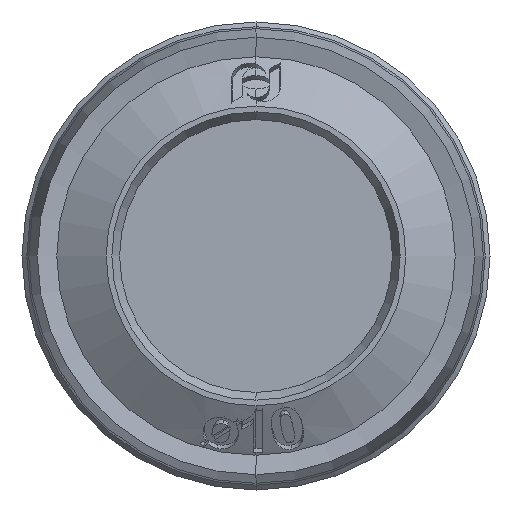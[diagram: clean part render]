
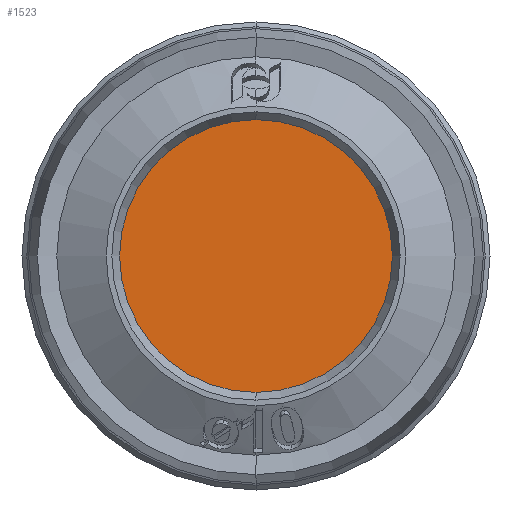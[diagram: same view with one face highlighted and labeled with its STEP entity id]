
A CAD part, front view. The second image highlights one B-rep face of the part: STEP entity #1523.
In plain terms, the highlighted planar face has unit normal (0, -1, 0).
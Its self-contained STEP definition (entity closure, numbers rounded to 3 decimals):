
#428 = CARTESIAN_POINT ( 'NONE',  ( 0., 4.6, 5.1 ) ) ;
#432 = CARTESIAN_POINT ( 'NONE',  ( 0., 4.6, -5.1 ) ) ;
#1523 = ADVANCED_FACE ( 'NONE', ( #5523 ), #7112, .T. ) ;
#1843 = AXIS2_PLACEMENT_3D ( 'NONE', #14503, #14504, #14505 ) ;
#1877 = AXIS2_PLACEMENT_3D ( 'NONE', #15085, #15086, #15087 ) ;
#3483 = VERTEX_POINT ( 'NONE', #428 ) ;
#3487 = VERTEX_POINT ( 'NONE', #432 ) ;
#5523 = FACE_OUTER_BOUND ( 'NONE', #16932, .T. ) ;
#6556 = AXIS2_PLACEMENT_3D ( 'NONE', #7120, #7121, #7122 ) ;
#7112 = PLANE ( 'NONE',  #6556 ) ;
#7120 = CARTESIAN_POINT ( 'NONE',  ( 0., 4.6, 0. ) ) ;
#7121 = DIRECTION ( 'NONE',  ( 0., -1., 0. ) ) ;
#7122 = DIRECTION ( 'NONE',  ( 0., 0., -1. ) ) ;
#8653 = ORIENTED_EDGE ( 'NONE', *, *, #16712, .F. ) ;
#8654 = ORIENTED_EDGE ( 'NONE', *, *, #16362, .F. ) ;
#14503 = CARTESIAN_POINT ( 'NONE',  ( 0., 4.6, 0. ) ) ;
#14504 = DIRECTION ( 'NONE',  ( 0., 1., 0. ) ) ;
#14505 = DIRECTION ( 'NONE',  ( 0., 0., -1. ) ) ;
#15085 = CARTESIAN_POINT ( 'NONE',  ( 0., 4.6, 0. ) ) ;
#15086 = DIRECTION ( 'NONE',  ( 0., 1., 0. ) ) ;
#15087 = DIRECTION ( 'NONE',  ( 0., 0., -1. ) ) ;
#15971 = CIRCLE ( 'NONE', #1843, 5.1 ) ;
#16042 = CIRCLE ( 'NONE', #1877, 5.1 ) ;
#16362 = EDGE_CURVE ( 'NONE', #3483, #3487, #15971, .T. ) ;
#16712 = EDGE_CURVE ( 'NONE', #3487, #3483, #16042, .T. ) ;
#16932 = EDGE_LOOP ( 'NONE', ( #8653, #8654 ) ) ;
